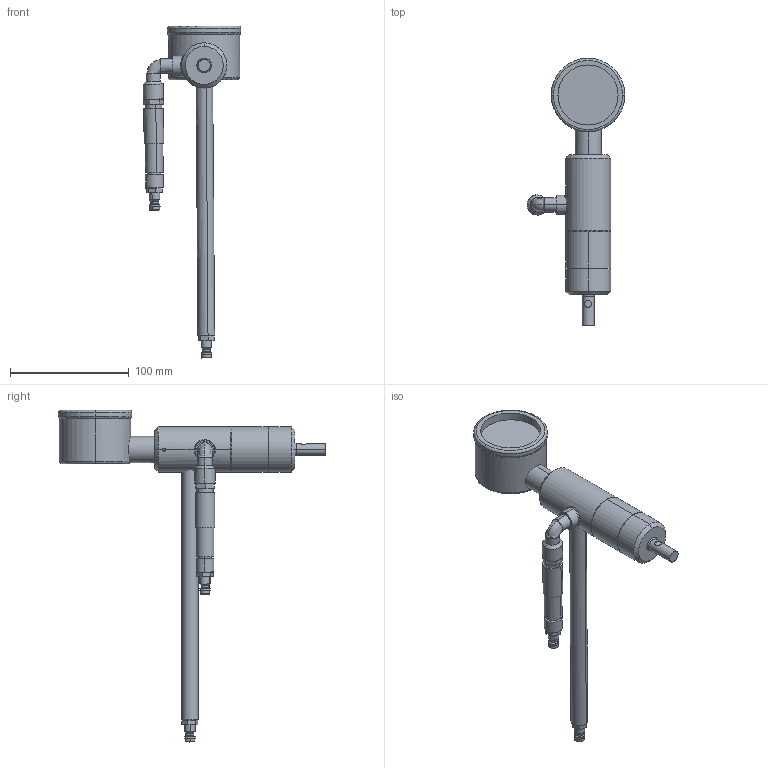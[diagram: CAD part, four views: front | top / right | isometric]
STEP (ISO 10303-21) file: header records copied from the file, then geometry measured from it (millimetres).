
FILE_DESCRIPTION (( 'STEP AP214' ), '1' );
FILE_NAME ('PLR10TGA.STEP', '2019-03-12T08:56:44', ( '' ), ( '' ), 'SwSTEP 2.0', 'SolidWorks 2018', '' );
FILE_SCHEMA (( 'AUTOMOTIVE_DESIGN' ));
Length unit declared in the file: millimetre
Products named in the file (14): Halterohr GA; Kopie von Motorblock PLR 11^PLR10TGA; Rändelschraube GA; Schnellkupplung; PLR10TGA; Rändelschraube; Ventil; Winkel; Kopie von Tacho^PLR10TGA; Kopie von Distanzring PLR 11^PLR10TGA; Kopie von Deckel PLR 11^PLR10TGA; Kopie von Stator PLR 11^PLR10TGA; Verschluss PLR 11; Kopie von Rotor PLR 11^PLR10TGA
Assembly tree (14 placements, depth 3):
  PLR10TGA
    Kopie von Motorblock PLR 11^PLR10TGA
    Kopie von Rotor PLR 11^PLR10TGA
    Kopie von Stator PLR 11^PLR10TGA
    Kopie von Deckel PLR 11^PLR10TGA
    Kopie von Distanzring PLR 11^PLR10TGA
    Kopie von Tacho^PLR10TGA
    Winkel
    Rändelschraube GA
      Rändelschraube
      Ventil
      Schnellkupplung
    Schnellkupplung
    Halterohr GA
    Verschluss PLR 11
Bounding box: 82.27 x 225 x 279.11 mm (x, y, z)
Volume: 237454 mm3; surface area: 103677.8 mm2
Topology: 13 solids, 13 shells, 289 faces, 601 edges, 378 vertices
Faces by surface type: cylinder 150, plane 93, cone 26, torus 17, bspline 3
Entity records: 8779 total; most frequent: CARTESIAN_POINT 2185, DIRECTION 1344, ORIENTED_EDGE 1058, AXIS2_PLACEMENT_3D 575, EDGE_CURVE 529, VERTEX_POINT 336, EDGE_LOOP 313, CIRCLE 302
